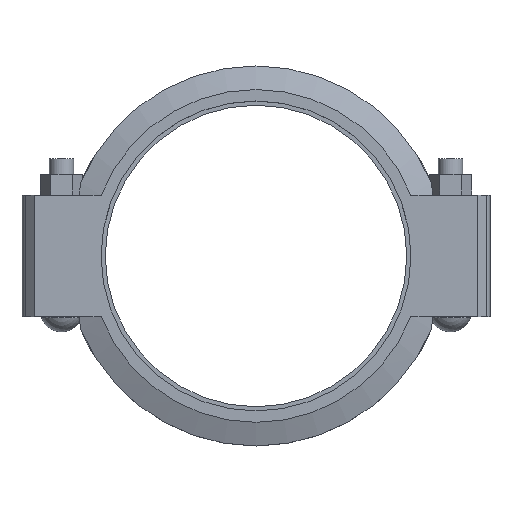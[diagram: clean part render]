
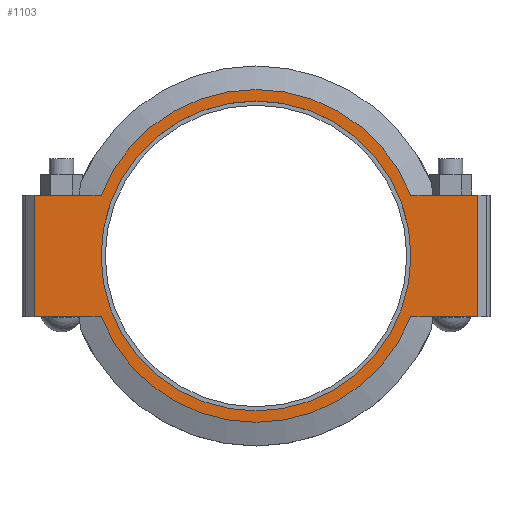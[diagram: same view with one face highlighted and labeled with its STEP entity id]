
A CAD part, top view. The second image highlights one B-rep face of the part: STEP entity #1103.
In plain terms, the highlighted planar face has unit normal (0, 0, 1).
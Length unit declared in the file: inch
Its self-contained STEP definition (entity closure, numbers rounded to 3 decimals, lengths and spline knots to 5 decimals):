
#83=FACE_BOUND('',#234,.T.);
#113=PLANE('',#1218);
#161=FACE_OUTER_BOUND('',#233,.T.);
#233=EDGE_LOOP('',(#874,#875,#876,#877,#878,#879,#880,#881));
#234=EDGE_LOOP('',(#882));
#306=LINE('',#1736,#385);
#317=LINE('',#1787,#396);
#323=LINE('',#1813,#402);
#325=LINE('',#1816,#404);
#326=LINE('',#1821,#405);
#327=LINE('',#1822,#406);
#385=VECTOR('',#1425,0.3937);
#396=VECTOR('',#1456,0.3937);
#402=VECTOR('',#1474,0.3937);
#404=VECTOR('',#1478,0.3937);
#405=VECTOR('',#1483,0.3937);
#406=VECTOR('',#1484,0.3937);
#429=CIRCLE('',#1175,6.375);
#445=CIRCLE('',#1219,6.84375);
#446=CIRCLE('',#1220,6.84375);
#472=VERTEX_POINT('',#1628);
#507=VERTEX_POINT('',#1733);
#508=VERTEX_POINT('',#1735);
#525=VERTEX_POINT('',#1782);
#526=VERTEX_POINT('',#1786);
#533=VERTEX_POINT('',#1808);
#534=VERTEX_POINT('',#1812);
#535=VERTEX_POINT('',#1818);
#536=VERTEX_POINT('',#1820);
#573=EDGE_CURVE('',#472,#472,#429,.T.);
#624=EDGE_CURVE('',#508,#507,#306,.T.);
#645=EDGE_CURVE('',#526,#525,#317,.T.);
#656=EDGE_CURVE('',#534,#533,#323,.T.);
#658=EDGE_CURVE('',#534,#507,#325,.T.);
#659=EDGE_CURVE('',#533,#535,#445,.T.);
#660=EDGE_CURVE('',#535,#536,#326,.T.);
#661=EDGE_CURVE('',#526,#536,#327,.T.);
#662=EDGE_CURVE('',#525,#508,#446,.T.);
#874=ORIENTED_EDGE('',*,*,#658,.F.);
#875=ORIENTED_EDGE('',*,*,#656,.T.);
#876=ORIENTED_EDGE('',*,*,#659,.T.);
#877=ORIENTED_EDGE('',*,*,#660,.T.);
#878=ORIENTED_EDGE('',*,*,#661,.F.);
#879=ORIENTED_EDGE('',*,*,#645,.T.);
#880=ORIENTED_EDGE('',*,*,#662,.T.);
#881=ORIENTED_EDGE('',*,*,#624,.T.);
#882=ORIENTED_EDGE('',*,*,#573,.T.);
#1103=ADVANCED_FACE('',(#161,#83),#113,.T.);
#1175=AXIS2_PLACEMENT_3D('',#1630,#1329,#1330);
#1218=AXIS2_PLACEMENT_3D('',#1817,#1479,#1480);
#1219=AXIS2_PLACEMENT_3D('',#1819,#1481,#1482);
#1220=AXIS2_PLACEMENT_3D('',#1823,#1485,#1486);
#1329=DIRECTION('center_axis',(0.,0.,-1.));
#1330=DIRECTION('ref_axis',(1.,0.,0.));
#1425=DIRECTION('',(1.,0.,0.));
#1456=DIRECTION('',(1.,0.,0.));
#1474=DIRECTION('',(-1.,0.,0.));
#1478=DIRECTION('',(0.,-1.,0.));
#1479=DIRECTION('center_axis',(0.,0.,1.));
#1480=DIRECTION('ref_axis',(-1.,0.,0.));
#1481=DIRECTION('center_axis',(0.,0.,1.));
#1482=DIRECTION('ref_axis',(1.,0.,0.));
#1483=DIRECTION('',(-1.,0.,0.));
#1484=DIRECTION('',(0.,1.,0.));
#1485=DIRECTION('center_axis',(0.,0.,1.));
#1486=DIRECTION('ref_axis',(1.,0.,0.));
#1628=CARTESIAN_POINT('',(-6.375,0.,1.315));
#1630=CARTESIAN_POINT('Origin',(0.,0.,1.315));
#1733=CARTESIAN_POINT('',(9.125,-2.5,1.315));
#1735=CARTESIAN_POINT('',(6.37079,-2.5,1.315));
#1736=CARTESIAN_POINT('',(-9.625,-2.5,1.315));
#1782=CARTESIAN_POINT('',(-6.37079,-2.5,1.315));
#1786=CARTESIAN_POINT('',(-9.125,-2.5,1.315));
#1787=CARTESIAN_POINT('',(-9.625,-2.5,1.315));
#1808=CARTESIAN_POINT('',(6.37079,2.5,1.315));
#1812=CARTESIAN_POINT('',(9.125,2.5,1.315));
#1813=CARTESIAN_POINT('',(9.625,2.5,1.315));
#1816=CARTESIAN_POINT('',(9.125,-1.25,1.315));
#1817=CARTESIAN_POINT('Origin',(0.,0.,
1.315));
#1818=CARTESIAN_POINT('',(-6.37079,2.5,1.315));
#1819=CARTESIAN_POINT('Origin',(0.,0.,1.315));
#1820=CARTESIAN_POINT('',(-9.125,2.5,1.315));
#1821=CARTESIAN_POINT('',(9.625,2.5,1.315));
#1822=CARTESIAN_POINT('',(-9.125,1.25,1.315));
#1823=CARTESIAN_POINT('Origin',(0.,0.,1.315));
